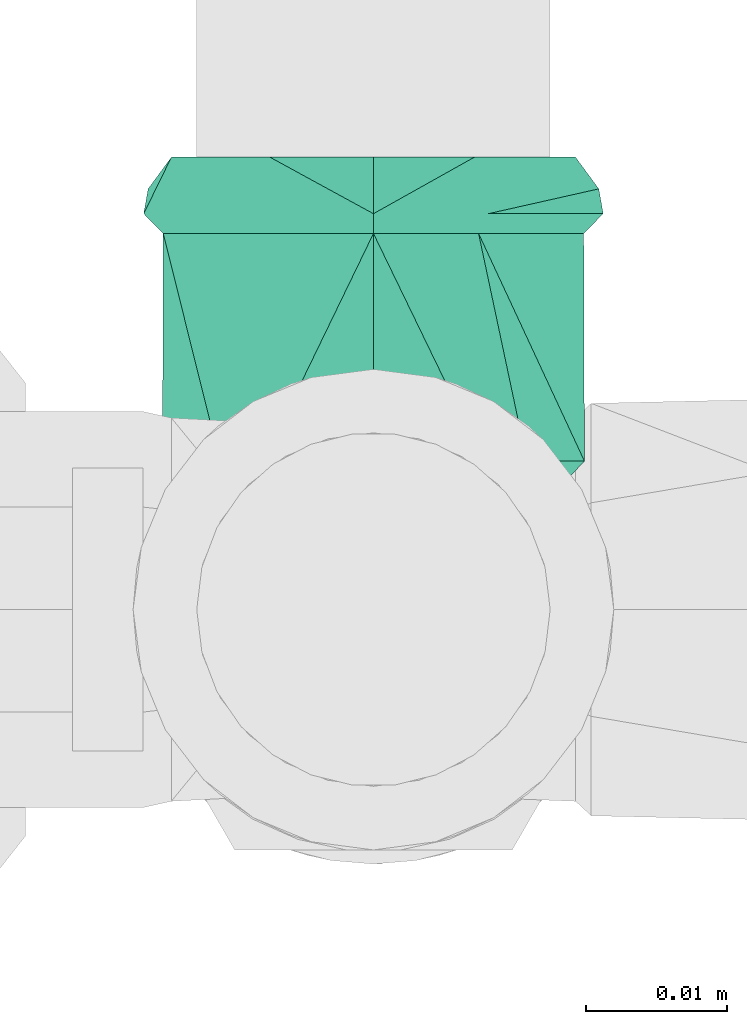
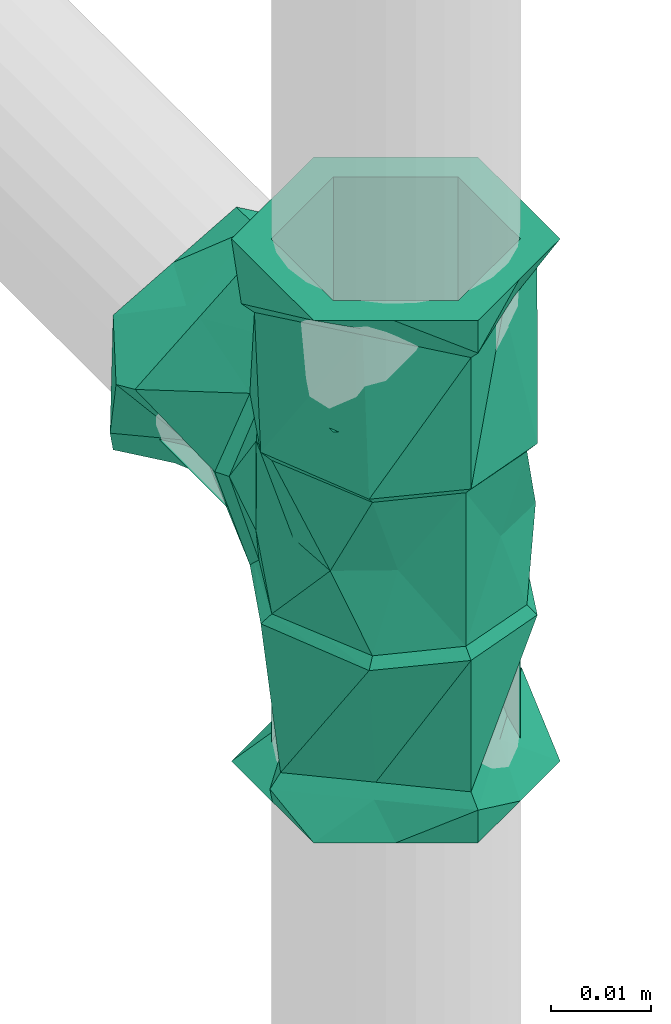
# One storey, part 397 of 589: 1 flow fitting.
"""IFC2X3 building model written with IfcOpenShell, lengths in millimetres."""

from ifc_helpers import new_model, entity, si_unit, converted_unit, derived_unit, direction, frame, origin, place, context, subcontext, project, spatial, faceted_brep, source, transform, mapped, material, type_object, type_shapes, element, save


model = new_model("IFC2X3")

# Units and contexts
model_context = context("Model", 3, precision=0.01, world=origin(), true_north=direction((6.123031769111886e-17, 1.0)))
body_context = subcontext(model_context, "Body", "Model", "MODEL_VIEW")
ifc_project = project(units=[si_unit("LENGTHUNIT", "METRE", prefix="MILLI"), si_unit("AREAUNIT", "SQUARE_METRE"), si_unit("VOLUMEUNIT", "CUBIC_METRE"), converted_unit("PLANEANGLEUNIT", "DEGREE", entity("IfcRatioMeasure", 0.017453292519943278), si_unit("PLANEANGLEUNIT", "RADIAN"), dimensions=[0, 0, 0, 0, 0, 0, 0]), si_unit("MASSUNIT", "GRAM", prefix="KILO"), derived_unit("MASSDENSITYUNIT", [(si_unit("MASSUNIT", "GRAM", prefix="KILO"), 1), (si_unit("LENGTHUNIT", "METRE"), -3)]), derived_unit("IONCONCENTRATIONUNIT", [(si_unit("MASSUNIT", "GRAM", prefix="KILO"), 1), (si_unit("LENGTHUNIT", "METRE"), -3)]), derived_unit("MOMENTOFINERTIAUNIT", [(si_unit("LENGTHUNIT", "METRE"), 4)]), si_unit("TIMEUNIT", "SECOND"), si_unit("FREQUENCYUNIT", "HERTZ"), si_unit("THERMODYNAMICTEMPERATUREUNIT", "DEGREE_CELSIUS"), derived_unit("THERMALTRANSMITTANCEUNIT", [(si_unit("MASSUNIT", "GRAM", prefix="KILO"), 1), (si_unit("THERMODYNAMICTEMPERATUREUNIT", "KELVIN"), -1), (si_unit("TIMEUNIT", "SECOND"), -3)]), derived_unit("THERMALCONDUCTANCEUNIT", [(si_unit("MASSUNIT", "GRAM", prefix="KILO"), 1), (si_unit("THERMODYNAMICTEMPERATUREUNIT", "KELVIN"), -1), (si_unit("TIMEUNIT", "SECOND"), -3), (si_unit("LENGTHUNIT", "METRE"), 1)]), derived_unit("VOLUMETRICFLOWRATEUNIT", [(si_unit("LENGTHUNIT", "METRE"), 3), (si_unit("TIMEUNIT", "SECOND"), -1)]), derived_unit("MASSFLOWRATEUNIT", [(si_unit("MASSUNIT", "GRAM", prefix="KILO"), 1), (si_unit("TIMEUNIT", "SECOND"), -1)]), derived_unit("ROTATIONALFREQUENCYUNIT", [(si_unit("TIMEUNIT", "SECOND"), -1)]), si_unit("ELECTRICCURRENTUNIT", "AMPERE"), si_unit("ELECTRICVOLTAGEUNIT", "VOLT"), si_unit("POWERUNIT", "WATT"), si_unit("FORCEUNIT", "NEWTON", prefix="KILO"), si_unit("ILLUMINANCEUNIT", "LUX"), si_unit("LUMINOUSFLUXUNIT", "LUMEN"), si_unit("LUMINOUSINTENSITYUNIT", "CANDELA"), derived_unit("USERDEFINED", [(si_unit("MASSUNIT", "GRAM", prefix="KILO"), -1), (si_unit("LENGTHUNIT", "METRE"), -2), (si_unit("TIMEUNIT", "SECOND"), 3), (si_unit("LUMINOUSFLUXUNIT", "LUMEN"), 1)]), derived_unit("USERDEFINED", [(si_unit("MASSUNIT", "GRAM", prefix="KILO"), 1), (si_unit("TIMEUNIT", "SECOND"), -3), (si_unit("LENGTHUNIT", "METRE"), 3), (si_unit("ELECTRICCURRENTUNIT", "AMPERE"), -2)]), derived_unit("SOUNDPOWERUNIT", [(si_unit("MASSUNIT", "GRAM", prefix="KILO"), 1), (si_unit("TIMEUNIT", "SECOND"), -3), (si_unit("LENGTHUNIT", "METRE"), 2)]), derived_unit("SOUNDPRESSUREUNIT", [(si_unit("MASSUNIT", "GRAM", prefix="KILO"), 1), (si_unit("LENGTHUNIT", "METRE"), -1), (si_unit("TIMEUNIT", "SECOND"), -2)]), derived_unit("LINEARVELOCITYUNIT", [(si_unit("LENGTHUNIT", "METRE"), 1), (si_unit("TIMEUNIT", "SECOND"), -1)]), si_unit("PRESSUREUNIT", "PASCAL"), derived_unit("USERDEFINED", [(si_unit("MASSUNIT", "GRAM", prefix="KILO"), 1), (si_unit("LENGTHUNIT", "METRE"), -2), (si_unit("TIMEUNIT", "SECOND"), -2)]), derived_unit("LINEARFORCEUNIT", [(si_unit("MASSUNIT", "GRAM", prefix="KILO"), 1), (si_unit("TIMEUNIT", "SECOND"), -2)]), derived_unit("PLANARFORCEUNIT", [(si_unit("MASSUNIT", "GRAM", prefix="KILO"), 1), (si_unit("LENGTHUNIT", "METRE"), -1), (si_unit("TIMEUNIT", "SECOND"), -2)]), derived_unit("SPECIFICHEATCAPACITYUNIT", [(si_unit("THERMODYNAMICTEMPERATUREUNIT", "KELVIN"), -1), (si_unit("LENGTHUNIT", "METRE"), 2), (si_unit("TIMEUNIT", "SECOND"), -2)]), derived_unit("HEATINGVALUEUNIT", [(si_unit("LENGTHUNIT", "METRE"), 2), (si_unit("TIMEUNIT", "SECOND"), -2)]), derived_unit("VAPORPERMEABILITYUNIT", [(si_unit("LENGTHUNIT", "METRE"), -1), (si_unit("TIMEUNIT", "SECOND"), 1)]), derived_unit("DYNAMICVISCOSITYUNIT", [(si_unit("MASSUNIT", "GRAM", prefix="KILO"), 1), (si_unit("TIMEUNIT", "SECOND"), -1), (si_unit("LENGTHUNIT", "METRE"), -1)]), derived_unit("THERMALEXPANSIONCOEFFICIENTUNIT", [(si_unit("THERMODYNAMICTEMPERATUREUNIT", "KELVIN"), -1)]), derived_unit("MODULUSOFELASTICITYUNIT", [(si_unit("MASSUNIT", "GRAM", prefix="KILO"), 1), (si_unit("LENGTHUNIT", "METRE"), -1), (si_unit("TIMEUNIT", "SECOND"), -2)]), derived_unit("ISOTHERMALMOISTURECAPACITYUNIT", [(si_unit("LENGTHUNIT", "METRE"), 3), (si_unit("MASSUNIT", "GRAM", prefix="KILO"), -1)]), derived_unit("MOISTUREDIFFUSIVITYUNIT", [(si_unit("TIMEUNIT", "SECOND"), -1), (si_unit("LENGTHUNIT", "METRE"), 2)])], contexts=[model_context])

# Site, building, storey
site_placement = place(None, origin())
site = spatial("IfcSite", under=ifc_project, at=site_placement, Name="Default", CompositionType="ELEMENT")
building_placement = place(site_placement, origin())
building = spatial("IfcBuilding", under=site, at=building_placement, CompositionType="ELEMENT")
storey_placement = place(building_placement, frame((0.0, 0.0, 100.0)))
storey = spatial("IfcBuildingStorey", under=building, at=storey_placement, Name="TÉRREO", CompositionType="ELEMENT", Elevation=100.0)

# Flow fitting
ifc_material = material(Name="PVC Marrom")
pipe_fitting_type = type_object("IfcPipeFittingType", Name="PVC Marrom Soldável_Tê e Tê de Reducão_Rodrigo MEP:Tê", PredefinedType="NOTDEFINED", material=ifc_material)
shared_shape = source(origin(), body_context, "Body", "Brep", [
    faceted_brep([(8.249999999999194, -32.0, -14.289419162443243), (12.50000000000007, -32.0, 0.0), (6.249999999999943, -32.0, -10.825317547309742), (12.267462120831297, -32.0, -7.330970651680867), (-6.250000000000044, -32.0, -10.825317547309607), (0.0, -32.0, -14.289419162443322), (16.499999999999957, -32.0, 0.0), (6.2500000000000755, -32.0, 10.82531754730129), (12.375000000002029, -32.0, 7.144709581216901), (8.2500000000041, -32.0, 14.289419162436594), (-6.249999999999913, -32.0, 10.82531754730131), (0.0, -32.0, 14.289419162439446), (-8.249999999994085, -32.0, 14.289419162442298), (-12.267462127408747, -32.0, 7.330970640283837), (-16.500000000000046, -32.0, 0.0), (-12.499999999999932, -32.0, 0.0), (-12.374999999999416, -32.0, -7.144709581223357), (-8.249999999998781, -32.0, -14.289419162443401), (-9.681691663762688, -28.0, 8.124823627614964), (-2.8633833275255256, -28.0, 16.24964725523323), (4.271846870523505, -29.756267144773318, 15.937418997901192), (-16.499999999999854, -28.0, 0.0), (16.499999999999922, -28.0, 0.0), (6.818308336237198, -28.0, 8.124823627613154), (9.683729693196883, -28.0, -8.124464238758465), (2.8674593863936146, -28.0, -16.248928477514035), (-4.26884844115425, -29.756354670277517, -15.93822239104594), (-6.816270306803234, -28.0, -8.124464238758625), (-6.250000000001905, -28.0, -10.825317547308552), (-9.374999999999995, -28.0, -5.412658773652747), (-12.499999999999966, -28.0, 0.0), (-8.81604864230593, -26.60000000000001, -6.380790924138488), (-6.250000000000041, -26.60000000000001, -10.82531754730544), (-6.249999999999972, -14.500000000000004, -10.825317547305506), (-12.499999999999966, -26.600000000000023, 0.0), (-12.499999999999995, -14.500000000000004, 0.0), (0.0, -28.0, -10.82531754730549), (6.250000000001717, -28.0, -10.8253175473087), (6.249999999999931, -26.599999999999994, -10.825317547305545), (0.0, -26.6, -10.825317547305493), (6.250000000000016, -14.500000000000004, -10.825317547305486), (-26.6, 6.249999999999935, -10.825317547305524), (-32.0, 6.249999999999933, -10.825317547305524), (-32.0, -6.250000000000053, -10.825317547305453), (-26.6, -6.250000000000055, -10.825317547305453), (-15.89999999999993, -6.24999999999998, -10.825317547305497), (-15.89999999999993, 6.250000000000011, -10.82531754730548), (32.0, -6.249999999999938, -10.825317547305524), (32.0, 6.250000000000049, -10.825317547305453), (15.900000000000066, 6.249999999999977, -10.825317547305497), (15.900000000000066, -6.250000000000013, -10.82531754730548), (12.500000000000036, -28.0, 0.0), (8.816048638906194, -28.0, -6.380790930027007), (9.374999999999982, -26.599999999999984, -5.4126587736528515), (12.500000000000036, -26.6, 0.0), (12.500000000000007, -14.500000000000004, 0.0), (6.249999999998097, -28.0, 10.825317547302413), (9.374999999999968, -28.0, 5.4126587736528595), (8.81604864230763, -26.599999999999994, 6.380790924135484), (6.249999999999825, -26.599999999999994, 10.825317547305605), (6.249999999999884, -14.500000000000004, 10.825317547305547), (0.0, -28.0, 10.82531754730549), (-6.249999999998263, -28.0, 10.82531754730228), (-6.250000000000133, -26.60000000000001, 10.825317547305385), (0.0, -26.6, 10.825317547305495), (-6.250000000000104, -14.500000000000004, 10.825317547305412), (-26.6, -6.250000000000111, 10.825317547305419), (-32.0, -6.2500000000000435, 10.825317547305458), (-32.0, 6.249999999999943, 10.825317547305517), (-26.6, 6.249999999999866, 10.825317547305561), (-15.89999999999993, 6.2499999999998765, 10.825317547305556), (-15.89999999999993, -6.250000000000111, 10.825317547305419), (32.0, 6.25000000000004, 10.825317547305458), (32.0, -6.249999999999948, 10.825317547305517), (15.900000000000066, -6.249999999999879, 10.825317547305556), (15.900000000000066, 6.250000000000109, 10.825317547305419), (-8.816048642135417, -28.0, 6.380790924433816), (-9.37500000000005, -26.60000000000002, 5.412658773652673), (-9.52540162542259, -26.600000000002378, -4.67817300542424), (-6.239785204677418, -26.600000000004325, -7.435444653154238), (-3.9508032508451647, -26.60000000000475, -9.356346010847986), (-15.100000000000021, -26.600000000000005, 0.0), (26.599999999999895, -2.6204295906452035, -14.870889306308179), (26.599999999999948, 6.239785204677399, -7.4354446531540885), (26.6, 15.1, 0.0), (28.0, 16.500000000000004, 0.0), (28.0, 6.8183083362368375, -8.124823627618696), (28.0, -2.863383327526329, -16.249647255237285), (2.6204295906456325, -26.600000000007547, -14.870889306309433), (8.860214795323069, -26.60000000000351, -7.435444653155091), (15.100000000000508, -26.599999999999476, 0.0), (-28.0, 11.139050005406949, -6.389835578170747), (-28.0, 16.500000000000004, 0.0), (-26.6, 15.1, 0.0), (-28.0, 10.408551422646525, 5.111910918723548), (6.237920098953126, -26.600000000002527, 7.435115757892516), (-2.6241598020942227, -26.600000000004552, 14.87023151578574), (-10.193918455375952, -26.6000000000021, 5.847667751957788), (28.0, 2.867459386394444, 16.248928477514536), (28.0, 9.683729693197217, 8.124464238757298), (28.0, 11.139050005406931, 6.389835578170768), (26.600000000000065, 8.862079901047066, 7.435115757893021), (26.60000000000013, 2.6241598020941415, 14.870231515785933), (-8.862079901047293, -26.600000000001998, 7.435115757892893), (-10.500000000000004, -10.499999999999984, 10.851727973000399), (-13.758563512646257, -13.758563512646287, 6.221891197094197), (-15.099999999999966, -15.1, 0.0), (-2.3130218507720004, -10.500000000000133, 14.921793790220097), (15.10000000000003, -15.1, 0.0), (13.76043085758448, -13.760430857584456, 6.217760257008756), (10.500000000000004, -10.500000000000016, 10.851727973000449), (2.5608688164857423, -10.500000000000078, 13.373598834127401), (10.500000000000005, -10.50000000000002, -10.851727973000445), (13.758563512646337, -13.758563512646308, -6.221891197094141), (2.3130072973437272, -10.499999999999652, -14.921796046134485), (-13.758563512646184, -13.758563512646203, -6.2218911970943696), (-10.499999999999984, -10.499999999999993, -10.851727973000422), (-2.5608694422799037, -10.499999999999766, -13.373602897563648), (-1.961744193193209, -9.399999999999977, -12.676307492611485), (2.052445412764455, -9.39999999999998, -13.889170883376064), (-9.949440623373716, -9.949440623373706, -10.64320553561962), (9.94944062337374, -9.949440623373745, -10.64320553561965), (-9.4, -9.399999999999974, -10.428882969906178), (9.399999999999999, -9.400000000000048, -10.428882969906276), (1.9617441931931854, -9.400000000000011, 12.676307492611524), (-2.0524454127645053, -9.399999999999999, 13.88917088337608), (9.949440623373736, -9.949440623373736, 10.643205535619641), (-9.949440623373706, -9.949440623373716, 10.64320553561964), (9.399999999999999, -9.400000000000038, 10.428882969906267), (-9.399999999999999, -9.400000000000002, 10.428882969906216), (-3.3983011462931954, -6.613684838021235, -12.384699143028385), (6.552820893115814, -7.834517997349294, -11.650833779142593), (0.0, -6.1261796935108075, -12.63295382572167), (3.3983011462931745, -6.613684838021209, 12.384699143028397), (-6.552820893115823, -7.834517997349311, 11.650833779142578), (0.0, -6.1261796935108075, 12.632953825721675), (-15.89999999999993, -12.5, 0.0), (-15.89999999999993, 12.5, 0.0), (-26.6, -12.5, 0.0), (-32.0, -12.5, 0.0), (32.0, -12.500000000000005, 0.0), (15.900000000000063, -12.500000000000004, 0.0), (-32.0, 12.5, 0.0), (-26.6, 12.5, 0.0), (32.0, 12.499999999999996, 0.0), (15.900000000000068, 12.499999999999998, 0.0), (0.0, 7.452791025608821, -11.898634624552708), (-9.400000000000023, 10.81746074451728, -8.95009178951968), (0.0, 10.746395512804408, -5.949317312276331), (0.0, 14.039999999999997, 0.0), (9.399999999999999, 14.04, 0.0), (-9.399999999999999, 14.039999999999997, 0.0), (-9.400000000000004, -0.5924547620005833, -14.027494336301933), (-9.399999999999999, 5.112502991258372, -11.48879306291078), (0.0, 1.6956297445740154, -12.209968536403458), (0.0, 0.6633056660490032, -12.265794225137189), (0.0, 0.6633056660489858, 12.265794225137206), (0.0, 7.452791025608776, 11.898634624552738), (-9.399999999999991, 10.817460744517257, 8.950091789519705), (-9.39999999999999, 5.112502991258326, 11.488793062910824), (-9.399999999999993, -0.5924547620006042, 14.027494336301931), (0.0, 10.746395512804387, 5.949317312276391), (0.0, 1.6956297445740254, 12.209968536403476), (-10.499999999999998, 15.099999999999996, 0.0), (-10.50000000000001, 5.260836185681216, -12.407167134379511), (-10.500000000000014, 11.531840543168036, -9.748161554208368), (-10.500000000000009, -1.0101681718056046, -15.066172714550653), (-10.499999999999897, -1.0101681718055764, 15.066172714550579), (-10.49999999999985, 11.531840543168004, 9.7481615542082), (-10.499999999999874, 5.260836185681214, 12.40716713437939), (-26.600000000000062, 6.237920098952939, 7.435115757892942), (-26.600000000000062, -8.862079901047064, 7.4351157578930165), (-26.6, -15.1, 0.0), (-26.60000000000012, -2.624159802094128, 14.870231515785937), (-26.59999999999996, -6.239785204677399, -7.4354446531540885), (-26.599999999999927, 2.6204295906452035, -14.870889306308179), (26.6, -15.1, 0.0), (-26.599999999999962, 8.860214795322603, -7.435444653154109), (-28.0, 2.867459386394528, -16.248928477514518), (-28.0, -6.816270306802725, -8.124464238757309), (-28.0, -16.49999999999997, 0.0), (-28.0, 9.683729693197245, -8.124464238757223), (-28.0, -2.863383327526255, 16.24964725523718), (-28.0, -9.681691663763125, 8.12482362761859), (-28.0, 6.818308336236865, 8.124823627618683), (-28.0, 4.317102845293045, 10.223821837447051), (-32.0, -8.250000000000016, -14.289419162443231), (-32.0, -12.267462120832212, -7.330970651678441), (-32.0, 0.0, -14.289419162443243), (-32.0, -16.5, 0.0), (-32.0, -12.374999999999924, 7.144709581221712), (-32.0, -8.249999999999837, 14.289419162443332), (-32.0, 0.0, 14.289419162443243), (-32.0, 8.250000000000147, 14.289419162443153), (-32.0, 12.267462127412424, 7.3309706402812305), (-32.0, 16.5, 0.0), (-32.0, 12.374999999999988, -7.144709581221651), (-32.0, 8.249999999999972, -14.289419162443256), (32.0, 12.374999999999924, 7.144709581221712), (32.0, 16.5, 0.0), (28.0, -16.500000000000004, 0.0), (32.0, -16.5, 0.0), (32.0, -12.267462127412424, 7.3309706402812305), (32.0, -12.374999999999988, -7.144709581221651), (32.0, 12.267462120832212, -7.330970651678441), (9.399999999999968, 10.817460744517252, -8.950091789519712), (9.400000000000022, 5.112502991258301, -11.488793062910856), (9.399999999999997, -0.5924547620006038, -14.027494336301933), (9.39999999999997, 10.817460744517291, 8.95009178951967), (9.399999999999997, -0.592454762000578, 14.027494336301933), (9.400000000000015, 5.112502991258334, 11.48879306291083), (10.500000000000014, -1.010168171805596, -15.066172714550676), (10.499999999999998, 11.531840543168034, -9.748161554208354), (10.500000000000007, 5.260836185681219, -12.407167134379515), (10.500000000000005, 15.1, 0.0), (10.500000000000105, 5.260836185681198, 12.407167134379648), (10.50000000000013, 11.53184054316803, 9.748161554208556), (10.500000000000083, -1.0101681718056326, 15.066172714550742), (26.600000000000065, -6.237920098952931, 7.435115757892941), (26.59999999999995, -8.860214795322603, -7.435444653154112), (28.0, -9.68169166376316, -8.124823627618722), (28.0, -11.138410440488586, -6.388970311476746), (28.0, -6.816270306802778, 8.124464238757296), (32.0, 8.250000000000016, -14.289419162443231), (32.0, 0.0, -14.289419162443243), (32.0, 8.249999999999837, 14.289419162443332), (32.0, 0.0, 14.289419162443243), (32.0, -8.250000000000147, 14.289419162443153), (32.0, -8.249999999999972, -14.289419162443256)], [[[0, 1, 2]], [[1, 0, 3]], [[0, 2, 4]], [[4, 5, 0]], [[1, 3, 6]], [[7, 1, 6]], [[7, 6, 8]], [[7, 8, 9]], [[7, 9, 10]], [[10, 9, 11]], [[10, 11, 12]], [[10, 12, 13]], [[10, 13, 14]], [[14, 15, 10]], [[15, 14, 16]], [[15, 16, 17]], [[17, 4, 15]], [[4, 17, 5]], [[18, 12, 19]], [[12, 20, 19]], [[18, 21, 13]], [[21, 14, 13]], [[22, 8, 6]], [[20, 8, 23]], [[22, 23, 8]], [[19, 20, 23]], [[20, 12, 11, 9]], [[8, 20, 9]], [[12, 18, 13]], [[24, 0, 25]], [[0, 26, 25]], [[24, 22, 3]], [[22, 6, 3]], [[21, 16, 14]], [[26, 16, 27]], [[21, 27, 16]], [[25, 26, 27]], [[26, 0, 5, 17]], [[16, 26, 17]], [[0, 24, 3]], [[4, 28, 29]], [[4, 29, 30]], [[30, 15, 4]], [[29, 28, 31]], [[32, 31, 28]], [[33, 31, 32]], [[33, 34, 31]], [[34, 33, 35]], [[34, 30, 29]], [[29, 31, 34]], [[4, 2, 28]], [[2, 36, 28]], [[2, 37, 36]], [[38, 36, 37]], [[39, 36, 38]], [[40, 39, 38]], [[40, 32, 39]], [[40, 33, 32]], [[39, 32, 28]], [[28, 36, 39]], [[41, 42, 43, 44, 45, 46]], [[47, 48, 49, 50]], [[1, 51, 52]], [[1, 52, 37]], [[37, 2, 1]], [[53, 52, 51]], [[51, 54, 53]], [[55, 53, 54]], [[55, 38, 53]], [[38, 55, 40]], [[37, 52, 38]], [[53, 38, 52]], [[7, 56, 57]], [[7, 57, 51]], [[51, 1, 7]], [[57, 56, 58]], [[59, 58, 56]], [[60, 58, 59]], [[60, 54, 58]], [[54, 60, 55]], [[54, 51, 57]], [[57, 58, 54]], [[7, 10, 56]], [[10, 61, 56]], [[10, 62, 61]], [[63, 61, 62]], [[64, 61, 63]], [[65, 64, 63]], [[65, 59, 64]], [[65, 60, 59]], [[64, 59, 56]], [[56, 61, 64]], [[66, 67, 68, 69, 70, 71]], [[72, 73, 74, 75]], [[15, 30, 76]], [[15, 76, 62]], [[62, 10, 15]], [[77, 76, 30]], [[30, 34, 77]], [[35, 77, 34]], [[35, 63, 77]], [[63, 35, 65]], [[62, 76, 63]], [[77, 63, 76]], [[21, 78, 27]], [[27, 78, 79, 80]], [[78, 21, 81]], [[82, 83, 84, 85, 86, 87]], [[25, 80, 88]], [[25, 88, 89]], [[89, 24, 25]], [[90, 24, 89]], [[80, 25, 27]], [[22, 24, 90]], [[91, 92, 93]], [[90, 23, 22]], [[94, 93, 92]], [[95, 19, 23]], [[19, 95, 96]], [[96, 18, 19]], [[97, 81, 21]], [[98, 99, 100, 85, 84, 101, 102]], [[18, 96, 103, 97]], [[97, 21, 18]], [[90, 95, 23]], [[104, 103, 96]], [[105, 81, 97, 103]], [[105, 106, 81]], [[103, 104, 105]], [[96, 107, 104]], [[90, 108, 109]], [[110, 95, 109]], [[96, 95, 107]], [[90, 109, 95]], [[95, 110, 111, 107]], [[112, 89, 88]], [[113, 90, 89]], [[113, 108, 90]], [[89, 112, 113]], [[88, 114, 112]], [[81, 106, 115]], [[116, 79, 115]], [[114, 88, 80, 79]], [[115, 79, 78, 81]], [[79, 116, 117, 114]], [[118, 119, 114]], [[118, 117, 120]], [[121, 114, 119]], [[120, 122, 118]], [[112, 114, 121]], [[117, 116, 120]], [[121, 119, 123]], [[117, 118, 114]], [[124, 125, 107]], [[124, 111, 126]], [[127, 107, 125]], [[126, 128, 124]], [[104, 107, 127]], [[111, 110, 126]], [[127, 125, 129]], [[111, 124, 107]], [[130, 119, 118, 122]], [[131, 130, 132]], [[119, 131, 123]], [[131, 119, 130]], [[133, 125, 124, 128]], [[134, 133, 135]], [[125, 134, 129]], [[134, 125, 133]], [[35, 33, 40, 55, 60, 65]], [[136, 71, 70, 137, 46, 45]], [[138, 139, 67, 66, 71, 136]], [[73, 140, 141, 74]], [[69, 68, 142, 143, 137, 70]], [[144, 72, 75, 145]], [[143, 142, 42, 41, 46, 137]], [[48, 144, 145, 49]], [[44, 43, 139, 138, 136, 45]], [[140, 47, 50, 141]], [[146, 147, 148]], [[149, 150, 148, 151]], [[146, 152, 153, 147]], [[151, 148, 147]], [[130, 154, 155, 132]], [[152, 154, 130]], [[122, 152, 130]], [[152, 146, 154]], [[156, 134, 135]], [[157, 158, 159, 160]], [[161, 151, 158]], [[160, 129, 134]], [[160, 156, 162, 157]], [[158, 157, 161]], [[134, 156, 160]], [[161, 150, 149, 151]], [[151, 147, 163]], [[152, 164, 153]], [[165, 163, 147]], [[164, 152, 166]], [[152, 122, 120]], [[166, 120, 116]], [[120, 166, 152]], [[165, 147, 153]], [[165, 153, 164]], [[167, 127, 160]], [[168, 169, 159]], [[167, 104, 127]], [[127, 129, 160]], [[158, 151, 163]], [[168, 159, 158]], [[168, 158, 163]], [[160, 169, 167]], [[169, 160, 159]], [[168, 93, 170]], [[170, 167, 169, 168]], [[171, 172, 105]], [[168, 163, 93]], [[173, 167, 170]], [[104, 171, 105]], [[171, 104, 173]], [[106, 105, 172]], [[173, 104, 167]], [[166, 174, 175]], [[106, 172, 115]], [[108, 113, 176]], [[165, 175, 177]], [[115, 172, 174]], [[116, 174, 166]], [[175, 165, 164, 166]], [[93, 163, 177]], [[163, 165, 177]], [[174, 116, 115]], [[178, 177, 175]], [[91, 93, 177]], [[175, 179, 178]], [[180, 174, 172]], [[177, 178, 181, 91]], [[179, 175, 174]], [[180, 179, 174]], [[173, 182, 183]], [[170, 94, 184, 185]], [[183, 171, 173]], [[93, 94, 170]], [[173, 185, 182]], [[180, 171, 183]], [[185, 173, 170]], [[172, 171, 180]], [[186, 139, 43]], [[139, 186, 187]], [[186, 43, 42]], [[42, 188, 186]], [[139, 187, 189]], [[67, 139, 189]], [[67, 189, 190]], [[67, 190, 191]], [[67, 191, 68]], [[68, 191, 192]], [[68, 192, 193]], [[68, 193, 194]], [[68, 194, 195]], [[195, 142, 68]], [[142, 195, 196]], [[142, 196, 197]], [[197, 42, 142]], [[42, 197, 188]], [[184, 194, 193]], [[194, 184, 94, 92]], [[92, 195, 194]], [[85, 198, 199]], [[180, 190, 189]], [[200, 201, 202]], [[182, 191, 183]], [[183, 191, 190]], [[180, 183, 190]], [[182, 193, 192, 191]], [[193, 182, 185, 184]], [[179, 187, 186]], [[179, 180, 187]], [[180, 189, 187]], [[200, 203, 201]], [[92, 196, 195]], [[85, 199, 204]], [[178, 197, 181]], [[181, 197, 196]], [[196, 92, 91, 181]], [[179, 188, 178]], [[178, 188, 197]], [[179, 186, 188]], [[155, 131, 132]], [[146, 205, 206, 207]], [[148, 150, 205]], [[207, 123, 131]], [[207, 155, 154, 146]], [[205, 146, 148]], [[131, 155, 207]], [[157, 208, 161]], [[157, 209, 210, 208]], [[150, 161, 208]], [[133, 162, 156, 135]], [[209, 162, 133]], [[128, 209, 133]], [[209, 157, 162]], [[211, 121, 207]], [[212, 213, 206]], [[211, 112, 121]], [[121, 123, 207]], [[205, 150, 214]], [[212, 206, 205]], [[212, 205, 214]], [[207, 213, 211]], [[213, 207, 206]], [[150, 208, 214]], [[209, 215, 210]], [[216, 214, 208]], [[215, 209, 217]], [[209, 128, 126]], [[217, 126, 110]], [[126, 217, 209]], [[216, 208, 210]], [[216, 210, 215]], [[217, 218, 102]], [[108, 176, 109]], [[216, 102, 101]], [[109, 176, 218]], [[110, 218, 217]], [[102, 216, 215, 217]], [[84, 214, 101]], [[214, 216, 101]], [[218, 110, 109]], [[212, 84, 83]], [[83, 211, 213, 212]], [[219, 176, 113]], [[212, 214, 84]], [[82, 211, 83]], [[112, 219, 113]], [[219, 112, 82]], [[82, 112, 211]], [[87, 220, 221, 200, 176, 219, 82]], [[102, 218, 176, 200, 222, 98]], [[223, 144, 48]], [[144, 223, 204]], [[223, 48, 47]], [[47, 224, 223]], [[144, 204, 199]], [[72, 144, 199]], [[72, 199, 198]], [[72, 198, 225]], [[72, 225, 73]], [[73, 225, 226]], [[73, 226, 227]], [[73, 227, 202]], [[73, 202, 201]], [[201, 140, 73]], [[140, 201, 203]], [[140, 203, 228]], [[228, 47, 140]], [[47, 228, 224]], [[222, 202, 227]], [[222, 200, 202]], [[98, 225, 99]], [[99, 225, 198]], [[198, 85, 100, 99]], [[222, 226, 98]], [[98, 226, 225]], [[222, 227, 226]], [[86, 204, 223]], [[86, 85, 204]], [[87, 228, 220]], [[220, 228, 203]], [[203, 200, 221, 220]], [[87, 223, 224, 228]], [[87, 86, 223]], [[145, 75, 74, 141, 50, 49]]]),
])
type_shapes(pipe_fitting_type, [shared_shape])
flow_fitting_placement = place(storey_placement, frame((3191.179797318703, 277.31812904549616, 1300.0), z_axis=(-1.0, 0.0, 0.0), x_axis=(0.0, 0.0, -1.0)))
element("IfcFlowFitting", 1, at=flow_fitting_placement, inside=storey, type_object=pipe_fitting_type, material=ifc_material, Name="PVC Marrom Soldável_Tê e Tê de Reducão_Rodrigo MEP:Tê", ObjectType="PVC Marrom Soldável_Tê e Tê de Reducão_Rodrigo MEP:Tê", context=body_context, shape_type="MappedRepresentation", body=[
    mapped(shared_shape, transform((0.0, 0.0, 0.0), scale=1.0)),
])

save(model, "model.ifc")
